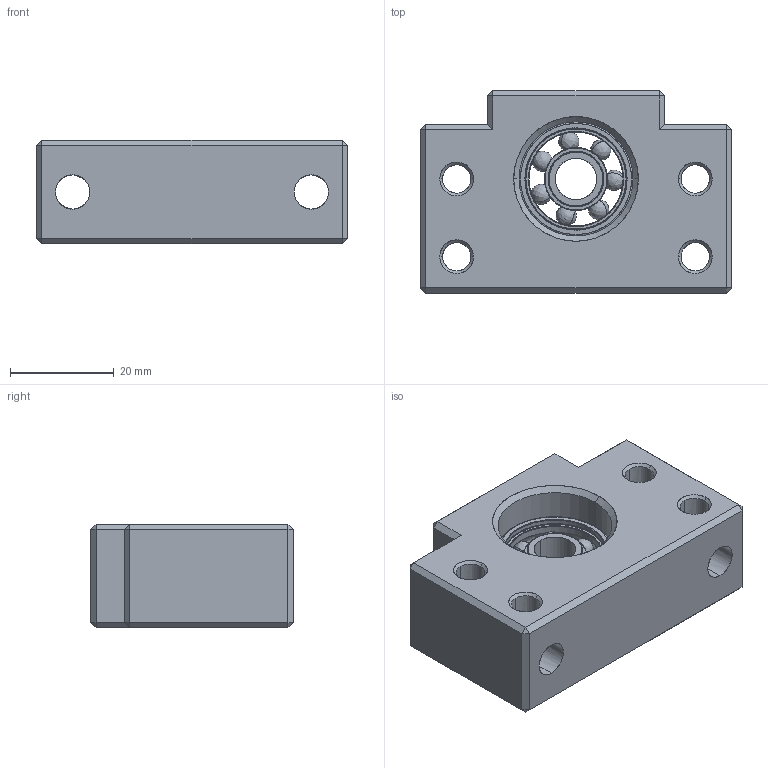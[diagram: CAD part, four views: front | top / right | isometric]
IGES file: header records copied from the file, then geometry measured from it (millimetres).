
Start section: SolidWorks IGES file using analytic representation for surfaces
Global section: file name: Z:\Accessories\_GC_!!!\SYK\Support unit\BF\BF10.IGS; native system: SolidWorks 2015; preprocessor: SolidWorks 2015; author: User; date: 170504.151618; units: millimetre
Bounding box: 60 x 39 x 20 mm (x, y, z)
Surface area: 12458.6 mm2 (no closed solid volume)
Topology: 0 solids, 0 shells, 180 faces, 2500 edges, 2472 vertices
Faces by surface type: bspline 110, revolution 70
